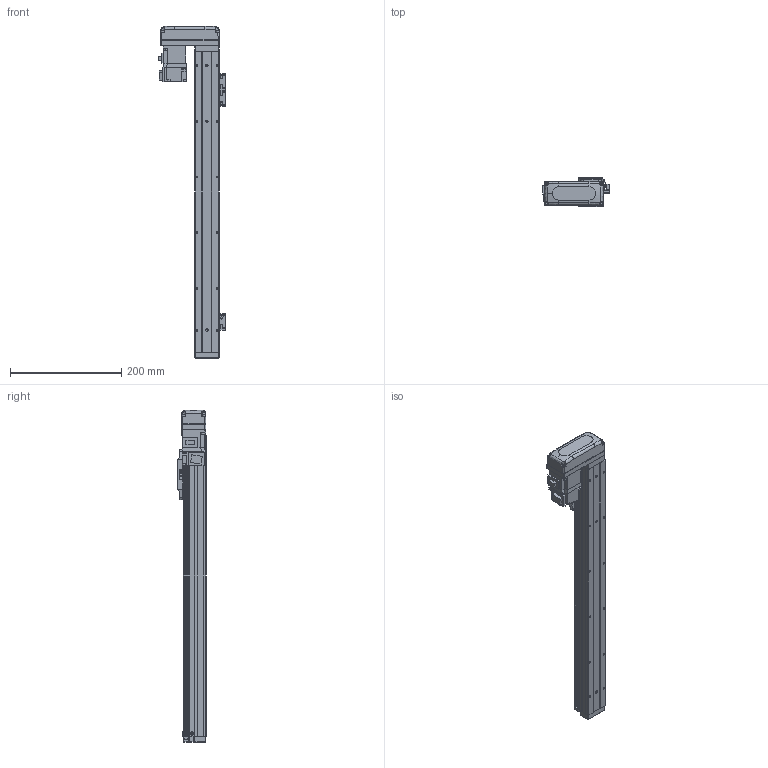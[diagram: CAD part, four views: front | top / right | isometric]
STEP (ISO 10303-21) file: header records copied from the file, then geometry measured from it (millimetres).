
FILE_DESCRIPTION (( 'STEP AP203' ), '1' );
FILE_NAME ('BTH40-400-BR-M05-C4.step', '2021-12-16T00:21:33', ( '微软用户' ), ( '微软中国' ), 'SwSTEP 2.0', 'SolidWorks 2020', '' );
FILE_SCHEMA (( 'CONFIG_CONTROL_DESIGN' ));
Length unit declared in the file: millimetre
Products named in the file (19): BTH50-026; BTH40-003; GBT 70.1-M2.5×6; BTH40-400-BR-M05-C4; BTH40-006; BTH40-004; BTH-M3X5X6; BTH40-013; GBT70.1-2000 M3×16; BTH50-024; HG-KR13; BTH50-028; GBT 70.1-M3℅6; GBT 70.3-M3℅6; BTH50-023; GBT96.1-2002 3×0.8; BTH40-027-1; BTH40-001-50_BTH40-001-400; BTH40-022
Assembly tree (47 placements, depth 2):
  BTH40-400-BR-M05-C4
    BTH40-001-50_BTH40-001-400
    BTH40-003
    BTH40-006
    BTH-M3X5X6  x8
    GBT70.1-2000 M3×16  x4
    BTH50-028  x2
    BTH50-023  x3
    BTH50-024  x3
    GBT 70.1-M3℅6  x6
    GBT96.1-2002 3×0.8  x6
    BTH40-022
    GBT 70.1-M2.5×6  x2
    BTH40-004
    BTH40-013
    HG-KR13
    GBT 70.3-M3℅6  x4
    BTH40-027-1
    BTH50-026
Bounding box: 120 x 52 x 596 mm (x, y, z)
Volume: 1130749.3 mm3; surface area: 206566.3 mm2
Topology: 49 solids, 49 shells, 1979 faces, 4647 edges, 2858 vertices
Faces by surface type: plane 1052, cylinder 491, cone 270, torus 128, bspline 34, sphere 4
Entity records: 39543 total; most frequent: CARTESIAN_POINT 7570, DIRECTION 6196, ORIENTED_EDGE 5940, EDGE_CURVE 2970, AXIS2_PLACEMENT_3D 2119, VECTOR 1958, LINE 1958, VERTEX_POINT 1845
